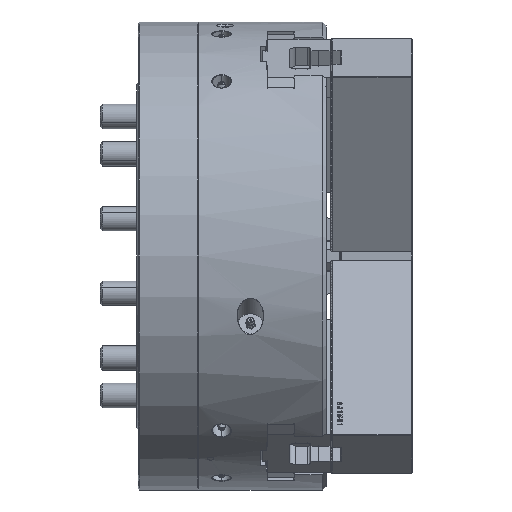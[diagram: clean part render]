
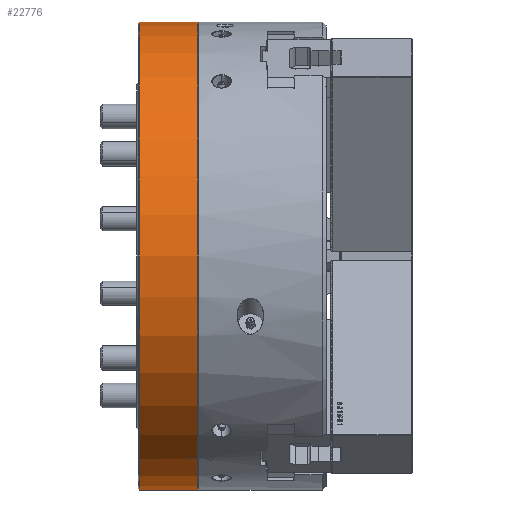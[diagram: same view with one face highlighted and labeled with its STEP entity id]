
A CAD part, front view. The second image highlights one B-rep face of the part: STEP entity #22776.
In plain terms, the highlighted cylindrical face has radius 190.5 mm (diameter 381 mm), a partial arc.
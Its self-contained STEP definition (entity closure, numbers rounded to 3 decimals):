
#2613 = EDGE_CURVE ( 'NONE', #86961, #127555, #19122, .T. ) ;
#4653 = EDGE_CURVE ( 'NONE', #72800, #179771, #9011, .T. ) ;
#7565 = CARTESIAN_POINT ( 'NONE',  ( -112., -94.817, -165.227 ) ) ;
#7969 = CARTESIAN_POINT ( 'NONE',  ( -245.149, 0., 190.5 ) ) ;
#8948 = LINE ( 'NONE', #7969, #92636 ) ;
#9011 = LINE ( 'NONE', #51790, #24203 ) ;
#10996 = CARTESIAN_POINT ( 'NONE',  ( -107., -95.683, -164.727 ) ) ;
#14196 = EDGE_CURVE ( 'NONE', #86961, #189980, #48297, .T. ) ;
#17857 = FACE_BOUND ( 'NONE', #185506, .T. ) ;
#19122 = LINE ( 'NONE', #54064, #67209 ) ;
#22776 = ADVANCED_FACE ( 'NONE', ( #92651, #17857 ), #118934, .T. ) ;
#24203 = VECTOR ( 'NONE', #111064, 1000. ) ;
#26746 = VERTEX_POINT ( 'NONE', #134451 ) ;
#28682 = EDGE_CURVE ( 'NONE', #127555, #148952, #74595, .T. ) ;
#29549 = DIRECTION ( 'NONE',  ( -1., 0., 0. ) ) ;
#29661 = DIRECTION ( 'NONE',  ( -1., 0., 0. ) ) ;
#32575 = CARTESIAN_POINT ( 'NONE',  ( -107., 0., 0. ) ) ;
#45199 = CARTESIAN_POINT ( 'NONE',  ( -245.149, -94.817, -165.227 ) ) ;
#48297 = CIRCLE ( 'NONE', #122763, 190.5 ) ;
#48845 = DIRECTION ( 'NONE',  ( -1., 0., 0. ) ) ;
#49829 = ORIENTED_EDGE ( 'NONE', *, *, #4653, .F. ) ;
#50304 = DIRECTION ( 'NONE',  ( 0., 0., 1. ) ) ;
#51790 = CARTESIAN_POINT ( 'NONE',  ( -245.149, -95.683, -164.727 ) ) ;
#54064 = CARTESIAN_POINT ( 'NONE',  ( -245.149, 0., -190.5 ) ) ;
#57528 = EDGE_LOOP ( 'NONE', ( #87120, #150399, #58434, #75855 ) ) ;
#58434 = ORIENTED_EDGE ( 'NONE', *, *, #65511, .T. ) ;
#59493 = CIRCLE ( 'NONE', #105934, 190.5 ) ;
#63125 = EDGE_CURVE ( 'NONE', #26746, #172845, #91796, .T. ) ;
#65511 = EDGE_CURVE ( 'NONE', #189980, #148952, #8948, .T. ) ;
#65644 = CARTESIAN_POINT ( 'NONE',  ( -104.5, 0., 0. ) ) ;
#67209 = VECTOR ( 'NONE', #172565, 1000. ) ;
#69325 = CARTESIAN_POINT ( 'NONE',  ( -112., -95.683, -164.727 ) ) ;
#72800 = VERTEX_POINT ( 'NONE', #10996 ) ;
#73407 = CARTESIAN_POINT ( 'NONE',  ( -112., 0., 0. ) ) ;
#74595 = CIRCLE ( 'NONE', #102572, 190.5 ) ;
#75280 = CARTESIAN_POINT ( 'NONE',  ( -152., 0., 190.5 ) ) ;
#75855 = ORIENTED_EDGE ( 'NONE', *, *, #28682, .F. ) ;
#76300 = DIRECTION ( 'NONE',  ( 0., 0., -1. ) ) ;
#86961 = VERTEX_POINT ( 'NONE', #97346 ) ;
#87120 = ORIENTED_EDGE ( 'NONE', *, *, #2613, .F. ) ;
#89371 = EDGE_CURVE ( 'NONE', #26746, #72800, #93997, .T. ) ;
#90843 = DIRECTION ( 'NONE',  ( 0., 0., 1. ) ) ;
#91796 = LINE ( 'NONE', #45199, #156551 ) ;
#92636 = VECTOR ( 'NONE', #48845, 1000. ) ;
#92651 = FACE_OUTER_BOUND ( 'NONE', #57528, .T. ) ;
#93801 = DIRECTION ( 'NONE',  ( -1., 0., 0. ) ) ;
#93997 = CIRCLE ( 'NONE', #118827, 190.5 ) ;
#94002 = DIRECTION ( 'NONE',  ( -1., 0., 0. ) ) ;
#97346 = CARTESIAN_POINT ( 'NONE',  ( -104.5, 0., -190.5 ) ) ;
#102572 = AXIS2_PLACEMENT_3D ( 'NONE', #182453, #94002, #50304 ) ;
#105934 = AXIS2_PLACEMENT_3D ( 'NONE', #73407, #106396, #76300 ) ;
#106396 = DIRECTION ( 'NONE',  ( 1., 0., 0. ) ) ;
#107233 = CARTESIAN_POINT ( 'NONE',  ( -104.5, 0., 190.5 ) ) ;
#110190 = ORIENTED_EDGE ( 'NONE', *, *, #182356, .F. ) ;
#111064 = DIRECTION ( 'NONE',  ( -1., 0., 0. ) ) ;
#117964 = CARTESIAN_POINT ( 'NONE',  ( -245.149, 0., 0. ) ) ;
#118827 = AXIS2_PLACEMENT_3D ( 'NONE', #32575, #122896, #90843 ) ;
#118934 = CYLINDRICAL_SURFACE ( 'NONE', #191659, 190.5 ) ;
#122763 = AXIS2_PLACEMENT_3D ( 'NONE', #65644, #93801, #139464 ) ;
#122896 = DIRECTION ( 'NONE',  ( -1., 0., 0. ) ) ;
#127555 = VERTEX_POINT ( 'NONE', #178273 ) ;
#134451 = CARTESIAN_POINT ( 'NONE',  ( -107., -94.817, -165.227 ) ) ;
#136383 = DIRECTION ( 'NONE',  ( 0., 0., 1. ) ) ;
#139464 = DIRECTION ( 'NONE',  ( 0., 0., 1. ) ) ;
#140470 = ORIENTED_EDGE ( 'NONE', *, *, #63125, .T. ) ;
#148952 = VERTEX_POINT ( 'NONE', #75280 ) ;
#150399 = ORIENTED_EDGE ( 'NONE', *, *, #14196, .T. ) ;
#156551 = VECTOR ( 'NONE', #29661, 1000. ) ;
#171381 = ORIENTED_EDGE ( 'NONE', *, *, #89371, .F. ) ;
#172565 = DIRECTION ( 'NONE',  ( -1., 0., 0. ) ) ;
#172845 = VERTEX_POINT ( 'NONE', #7565 ) ;
#178273 = CARTESIAN_POINT ( 'NONE',  ( -152., 0., -190.5 ) ) ;
#179771 = VERTEX_POINT ( 'NONE', #69325 ) ;
#182356 = EDGE_CURVE ( 'NONE', #179771, #172845, #59493, .T. ) ;
#182453 = CARTESIAN_POINT ( 'NONE',  ( -152., 0., 0. ) ) ;
#185506 = EDGE_LOOP ( 'NONE', ( #171381, #140470, #110190, #49829 ) ) ;
#189980 = VERTEX_POINT ( 'NONE', #107233 ) ;
#191659 = AXIS2_PLACEMENT_3D ( 'NONE', #117964, #29549, #136383 ) ;
